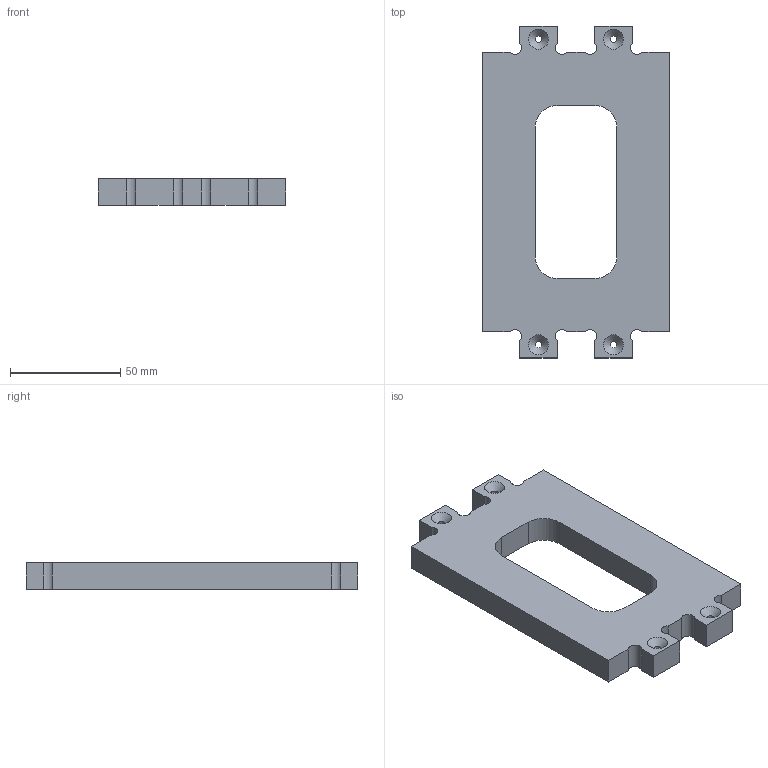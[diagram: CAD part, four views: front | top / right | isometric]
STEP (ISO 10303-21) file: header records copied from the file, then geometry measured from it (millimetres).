
FILE_DESCRIPTION(/* description */ ('','CAx-IF Rec.Pracs.---Representation and Presentation of Product Manufacturing Information (PMI)---4.0---2014-10-13'),/* implementation_level */ '2;1');
FILE_NAME(/* name */ 'TP-Back-Brace-12mm.step',/* time_stamp */ '2024-12-17T12:25:59+01:00',/* author */ (''),/* organization */ (''),/* preprocessor_version */ 'ST-DEVELOPER v20',/* originating_system */ 'Autodesk Translation Framework v13.20.0.188',/* authorisation */ '');
FILE_SCHEMA (('AP242_MANAGED_MODEL_BASED_3D_ENGINEERING_MIM_LF { 1 0 10303 442 1 1 4 }'));
Length unit declared in the file: millimetre
Products named in the file (1): Back Brace of Camera Holder
Bounding box: 85 x 150.46 x 12 mm (x, y, z)
Volume: 103766.1 mm3; surface area: 26644.5 mm2
Topology: 1 solids, 1 shells, 46 faces, 128 edges, 84 vertices
Faces by surface type: plane 26, cylinder 16, cone 4
Full cylindrical faces by diameter (mm): 3 x4
Entity records: 1529 total; most frequent: CARTESIAN_POINT 259, DIRECTION 258, ORIENTED_EDGE 256, EDGE_CURVE 128, LINE 92, VECTOR 92, VERTEX_POINT 84, AXIS2_PLACEMENT_3D 83
